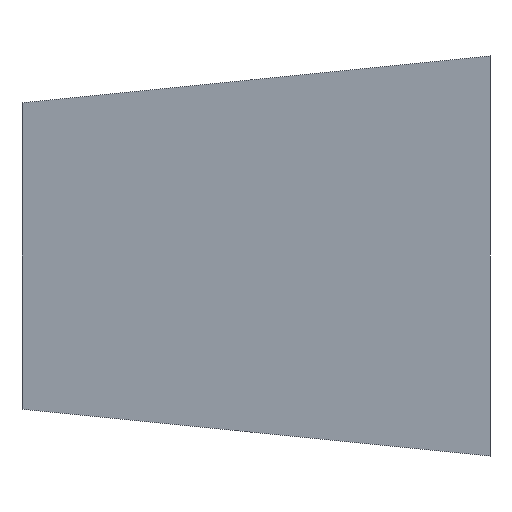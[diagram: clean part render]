
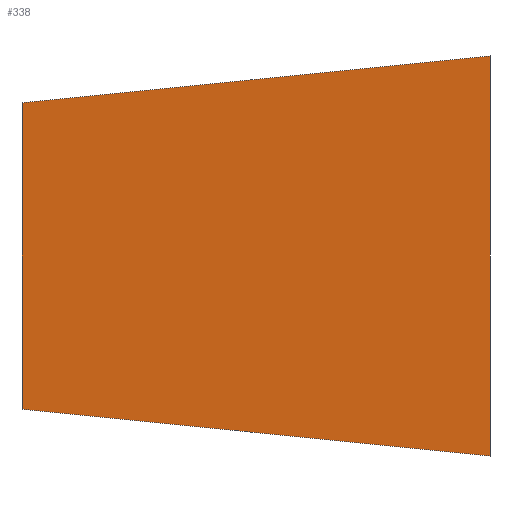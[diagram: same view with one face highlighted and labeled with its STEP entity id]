
A CAD part, front view. The second image highlights one B-rep face of the part: STEP entity #338.
In plain terms, the highlighted planar face has unit normal (-0.1, -0.995, 0).
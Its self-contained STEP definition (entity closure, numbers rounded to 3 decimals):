
#24 = VERTEX_POINT('',#25);
#25 = CARTESIAN_POINT('',(860.,-156.,-131.));
#32 = PLANE('',#33);
#33 = AXIS2_PLACEMENT_3D('',#34,#35,#36);
#34 = CARTESIAN_POINT('',(860.,-150.,-131.));
#35 = DIRECTION('',(-1.,0.,0.));
#36 = DIRECTION('',(0.,0.,1.));
#44 = PLANE('',#45);
#45 = AXIS2_PLACEMENT_3D('',#46,#47,#48);
#46 = CARTESIAN_POINT('',(1260.,-190.,-171.));
#47 = DIRECTION('',(-0.1,-0.,-0.995));
#48 = DIRECTION('',(-0.99,0.099,
    0.099));
#56 = EDGE_CURVE('',#24,#57,#59,.T.);
#57 = VERTEX_POINT('',#58);
#58 = CARTESIAN_POINT('',(860.,-156.,131.));
#59 = SURFACE_CURVE('',#60,(#64,#71),.PCURVE_S1.);
#60 = LINE('',#61,#62);
#61 = CARTESIAN_POINT('',(860.,-156.,-131.));
#62 = VECTOR('',#63,1.);
#63 = DIRECTION('',(0.,0.,1.));
#64 = PCURVE('',#32,#65);
#65 = DEFINITIONAL_REPRESENTATION('',(#66),#70);
#66 = LINE('',#67,#68);
#67 = CARTESIAN_POINT('',(0.,-6.));
#68 = VECTOR('',#69,1.);
#69 = DIRECTION('',(1.,0.));
#70 = ( GEOMETRIC_REPRESENTATION_CONTEXT(2) 
PARAMETRIC_REPRESENTATION_CONTEXT() REPRESENTATION_CONTEXT('2D SPACE',''
  ) );
#71 = PCURVE('',#72,#77);
#72 = PLANE('',#73);
#73 = AXIS2_PLACEMENT_3D('',#74,#75,#76);
#74 = CARTESIAN_POINT('',(1071.332,-177.133,
    0.));
#75 = DIRECTION('',(0.1,0.995,0.));
#76 = DIRECTION('',(0.995,-0.1,0.));
#77 = DEFINITIONAL_REPRESENTATION('',(#78),#82);
#78 = LINE('',#79,#80);
#79 = CARTESIAN_POINT('',(-212.386,131.));
#80 = VECTOR('',#81,1.);
#81 = DIRECTION('',(0.,-1.));
#82 = ( GEOMETRIC_REPRESENTATION_CONTEXT(2) 
PARAMETRIC_REPRESENTATION_CONTEXT() REPRESENTATION_CONTEXT('2D SPACE',''
  ) );
#100 = PLANE('',#101);
#101 = AXIS2_PLACEMENT_3D('',#102,#103,#104);
#102 = CARTESIAN_POINT('',(860.,-150.,131.));
#103 = DIRECTION('',(-0.1,0.,0.995));
#104 = DIRECTION('',(0.99,-0.099,
    0.099));
#142 = EDGE_CURVE('',#57,#143,#145,.T.);
#143 = VERTEX_POINT('',#144);
#144 = CARTESIAN_POINT('',(1260.,-196.,171.));
#145 = SURFACE_CURVE('',#146,(#150,#157),.PCURVE_S1.);
#146 = LINE('',#147,#148);
#147 = CARTESIAN_POINT('',(860.,-156.,131.));
#148 = VECTOR('',#149,1.);
#149 = DIRECTION('',(0.99,-0.099,
    0.099));
#150 = PCURVE('',#100,#151);
#151 = DEFINITIONAL_REPRESENTATION('',(#152),#156);
#152 = LINE('',#153,#154);
#153 = CARTESIAN_POINT('',(0.594,-5.971));
#154 = VECTOR('',#155,1.);
#155 = DIRECTION('',(1.,0.));
#156 = ( GEOMETRIC_REPRESENTATION_CONTEXT(2) 
PARAMETRIC_REPRESENTATION_CONTEXT() REPRESENTATION_CONTEXT('2D SPACE',''
  ) );
#157 = PCURVE('',#72,#158);
#158 = DEFINITIONAL_REPRESENTATION('',(#159),#163);
#159 = LINE('',#160,#161);
#160 = CARTESIAN_POINT('',(-212.386,-131.));
#161 = VECTOR('',#162,1.);
#162 = DIRECTION('',(0.995,-0.099));
#163 = ( GEOMETRIC_REPRESENTATION_CONTEXT(2) 
PARAMETRIC_REPRESENTATION_CONTEXT() REPRESENTATION_CONTEXT('2D SPACE',''
  ) );
#181 = PLANE('',#182);
#182 = AXIS2_PLACEMENT_3D('',#183,#184,#185);
#183 = CARTESIAN_POINT('',(1260.,-190.,171.));
#184 = DIRECTION('',(1.,0.,0.));
#185 = DIRECTION('',(0.,0.,-1.));
#218 = EDGE_CURVE('',#143,#219,#221,.T.);
#219 = VERTEX_POINT('',#220);
#220 = CARTESIAN_POINT('',(1260.,-196.,-171.));
#221 = SURFACE_CURVE('',#222,(#226,#233),.PCURVE_S1.);
#222 = LINE('',#223,#224);
#223 = CARTESIAN_POINT('',(1260.,-196.,171.));
#224 = VECTOR('',#225,1.);
#225 = DIRECTION('',(0.,0.,-1.));
#226 = PCURVE('',#181,#227);
#227 = DEFINITIONAL_REPRESENTATION('',(#228),#232);
#228 = LINE('',#229,#230);
#229 = CARTESIAN_POINT('',(0.,-6.));
#230 = VECTOR('',#231,1.);
#231 = DIRECTION('',(1.,0.));
#232 = ( GEOMETRIC_REPRESENTATION_CONTEXT(2) 
PARAMETRIC_REPRESENTATION_CONTEXT() REPRESENTATION_CONTEXT('2D SPACE',''
  ) );
#233 = PCURVE('',#72,#234);
#234 = DEFINITIONAL_REPRESENTATION('',(#235),#239);
#235 = LINE('',#236,#237);
#236 = CARTESIAN_POINT('',(189.609,-171.));
#237 = VECTOR('',#238,1.);
#238 = DIRECTION('',(0.,1.));
#239 = ( GEOMETRIC_REPRESENTATION_CONTEXT(2) 
PARAMETRIC_REPRESENTATION_CONTEXT() REPRESENTATION_CONTEXT('2D SPACE',''
  ) );
#289 = EDGE_CURVE('',#219,#24,#290,.T.);
#290 = SURFACE_CURVE('',#291,(#295,#302),.PCURVE_S1.);
#291 = LINE('',#292,#293);
#292 = CARTESIAN_POINT('',(1260.,-196.,-171.));
#293 = VECTOR('',#294,1.);
#294 = DIRECTION('',(-0.99,0.099,
    0.099));
#295 = PCURVE('',#44,#296);
#296 = DEFINITIONAL_REPRESENTATION('',(#297),#301);
#297 = LINE('',#298,#299);
#298 = CARTESIAN_POINT('',(-0.594,-5.971));
#299 = VECTOR('',#300,1.);
#300 = DIRECTION('',(1.,0.));
#301 = ( GEOMETRIC_REPRESENTATION_CONTEXT(2) 
PARAMETRIC_REPRESENTATION_CONTEXT() REPRESENTATION_CONTEXT('2D SPACE',''
  ) );
#302 = PCURVE('',#72,#303);
#303 = DEFINITIONAL_REPRESENTATION('',(#304),#308);
#304 = LINE('',#305,#306);
#305 = CARTESIAN_POINT('',(189.609,171.));
#306 = VECTOR('',#307,1.);
#307 = DIRECTION('',(-0.995,-0.099));
#308 = ( GEOMETRIC_REPRESENTATION_CONTEXT(2) 
PARAMETRIC_REPRESENTATION_CONTEXT() REPRESENTATION_CONTEXT('2D SPACE',''
  ) );
#338 = ADVANCED_FACE('',(#339),#72,.F.);
#339 = FACE_BOUND('',#340,.F.);
#340 = EDGE_LOOP('',(#341,#342,#343,#344));
#341 = ORIENTED_EDGE('',*,*,#56,.T.);
#342 = ORIENTED_EDGE('',*,*,#142,.T.);
#343 = ORIENTED_EDGE('',*,*,#218,.T.);
#344 = ORIENTED_EDGE('',*,*,#289,.T.);
